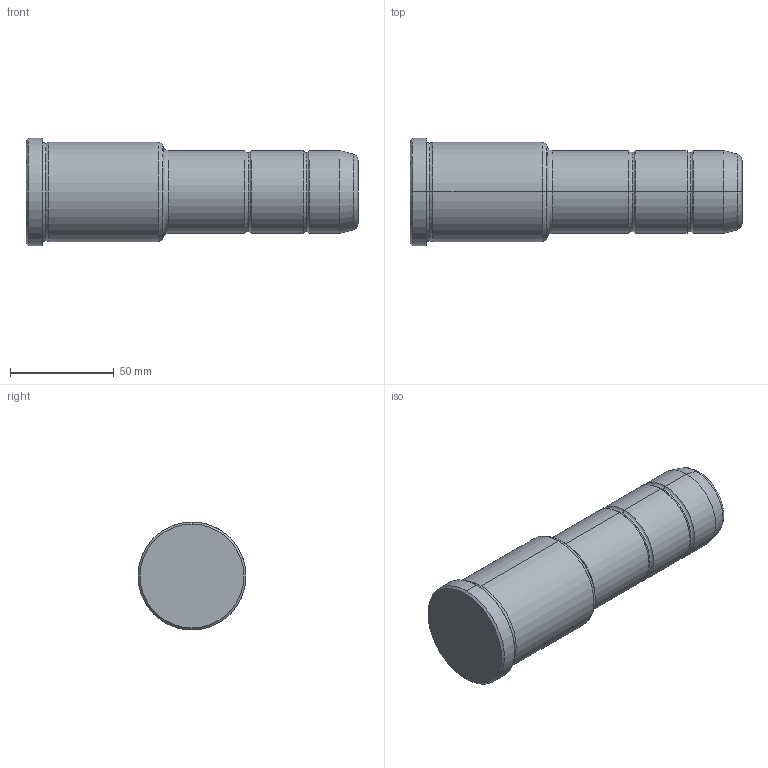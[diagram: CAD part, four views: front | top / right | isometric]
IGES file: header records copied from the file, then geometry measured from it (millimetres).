
Start section: START RECORD GO HERE.
Global section: file name: 351-40X66X160.igs; native system: DASSAULT SYSTEMES CATIA V5 R20 - www.3ds.com; preprocessor: CATIA Version 5 Release 20 ; author: Utente; organization: NB04-ASUS; date: 20211028.202733; units: millimetre
Bounding box: 160 x 52 x 52 mm (x, y, z)
Surface area: 25560.8 mm2 (no closed solid volume)
Topology: 0 solids, 0 shells, 36 faces, 204 edges, 204 vertices
Faces by surface type: revolution 32, plane 4
